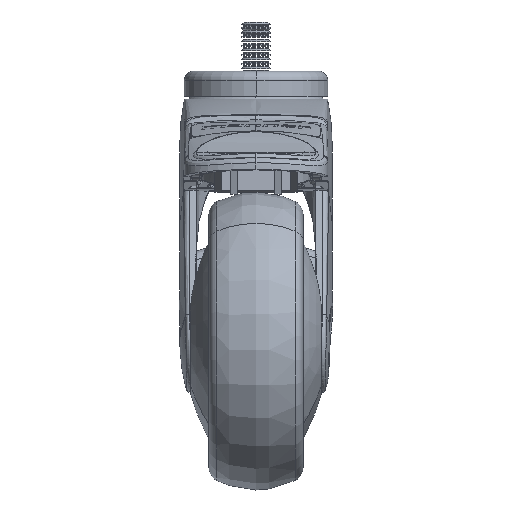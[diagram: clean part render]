
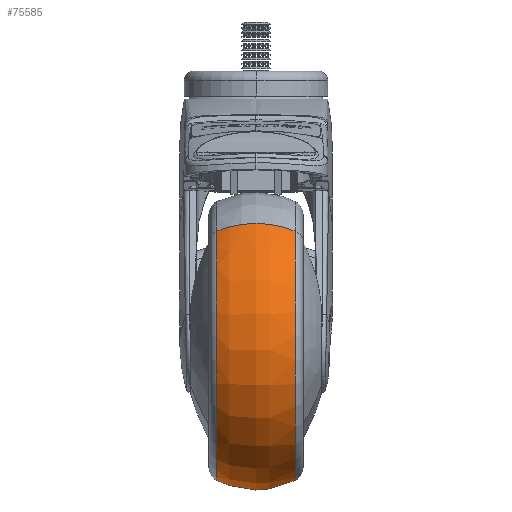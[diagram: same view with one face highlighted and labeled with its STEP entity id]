
A CAD part, left-side view. The second image highlights one B-rep face of the part: STEP entity #75585.
In plain terms, the highlighted toroidal (fillet/blend) face has major radius 22 mm and minor radius 28 mm.
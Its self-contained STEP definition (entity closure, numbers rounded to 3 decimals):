
#29358 = CARTESIAN_POINT ( 'NONE',  ( 9.968, -7.421, -82.124 ) ) ;
#29372 = CARTESIAN_POINT ( 'NONE',  ( -47.674, 18.754, -8.497 ) ) ;
#29400 = CARTESIAN_POINT ( 'NONE',  ( -5.291, 5.667, -62.633 ) ) ;
#29432 = CIRCLE ( 'NONE', #29482, 46.753 ) ;
#29434 = DIRECTION ( 'NONE',  ( -0.616, 0., 0.787 ) ) ;
#29435 = DIRECTION ( 'NONE',  ( -0.787, 0., -0.616 ) ) ;
#29438 = AXIS2_PLACEMENT_3D ( 'NONE', #29442, #29435, #29434 ) ;
#29442 = CARTESIAN_POINT ( 'NONE',  ( -32.415, 5.667, -27.988 ) ) ;
#29443 = DIRECTION ( 'NONE',  ( 0.616, 0., -0.787 ) ) ;
#29444 = DIRECTION ( 'NONE',  ( 0.787, 0., 0.616 ) ) ;
#29445 = AXIS2_PLACEMENT_3D ( 'NONE', #29400, #29444, #29443 ) ;
#29449 = CIRCLE ( 'NONE', #29438, 28. ) ;
#29452 = CIRCLE ( 'NONE', #29445, 28. ) ;
#29476 = CARTESIAN_POINT ( 'NONE',  ( -47.674, -7.421, -8.497 ) ) ;
#29478 = CARTESIAN_POINT ( 'NONE',  ( 9.968, 18.754, -82.124 ) ) ;
#29479 = DIRECTION ( 'NONE',  ( -0.616, 0., 0.787 ) ) ;
#29480 = DIRECTION ( 'NONE',  ( 0., 1., 0. ) ) ;
#29481 = CARTESIAN_POINT ( 'NONE',  ( -18.853, -7.421, -45.31 ) ) ;
#29482 = AXIS2_PLACEMENT_3D ( 'NONE', #29481, #29480, #29479 ) ;
#29490 = FACE_OUTER_BOUND ( 'NONE', #75587, .T. ) ;
#29522 = DIRECTION ( 'NONE',  ( -0.616, 0., 0.787 ) ) ;
#29525 = DIRECTION ( 'NONE',  ( 0., 1., 0. ) ) ;
#29537 = TOROIDAL_SURFACE ( 'NONE', #29546, 22., 28. ) ;
#29540 = CARTESIAN_POINT ( 'NONE',  ( -18.853, 5.667, -45.31 ) ) ;
#29546 = AXIS2_PLACEMENT_3D ( 'NONE', #29540, #29525, #29522 ) ;
#29566 = DIRECTION ( 'NONE',  ( -0.616, 0., 0.787 ) ) ;
#29567 = DIRECTION ( 'NONE',  ( 0., 1., 0. ) ) ;
#29568 = AXIS2_PLACEMENT_3D ( 'NONE', #29573, #29567, #29566 ) ;
#29573 = CARTESIAN_POINT ( 'NONE',  ( -18.853, 18.754, -45.31 ) ) ;
#29576 = CIRCLE ( 'NONE', #29568, 46.753 ) ;
#75484 = VERTEX_POINT ( 'NONE', #29358 ) ;
#75533 = EDGE_CURVE ( 'NONE', #75484, #75545, #29452, .T. ) ;
#75536 = VERTEX_POINT ( 'NONE', #29372 ) ;
#75538 = EDGE_CURVE ( 'NONE', #75546, #75536, #29449, .T. ) ;
#75543 = EDGE_CURVE ( 'NONE', #75484, #75546, #29432, .T. ) ;
#75545 = VERTEX_POINT ( 'NONE', #29478 ) ;
#75546 = VERTEX_POINT ( 'NONE', #29476 ) ;
#75585 = ADVANCED_FACE ( 'NONE', ( #29490 ), #29537, .T. ) ;
#75587 = EDGE_LOOP ( 'NONE', ( #75588, #75592, #75593, #75591 ) ) ;
#75588 = ORIENTED_EDGE ( 'NONE', *, *, #75533, .F. ) ;
#75591 = ORIENTED_EDGE ( 'NONE', *, *, #75602, .F. ) ;
#75592 = ORIENTED_EDGE ( 'NONE', *, *, #75543, .T. ) ;
#75593 = ORIENTED_EDGE ( 'NONE', *, *, #75538, .T. ) ;
#75602 = EDGE_CURVE ( 'NONE', #75545, #75536, #29576, .T. ) ;
